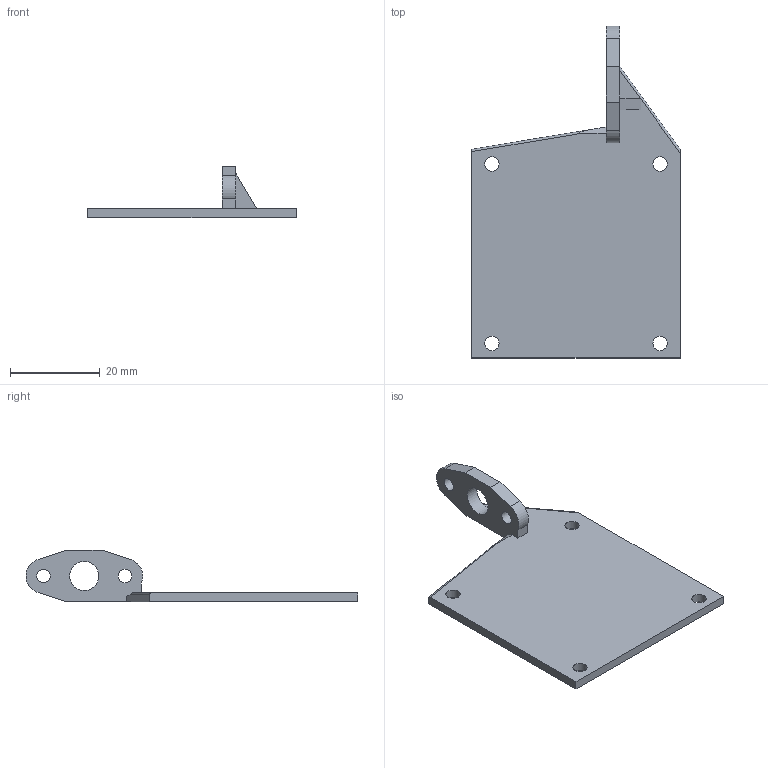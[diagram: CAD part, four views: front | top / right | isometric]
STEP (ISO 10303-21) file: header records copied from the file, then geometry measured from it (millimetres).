
FILE_DESCRIPTION(/* description */ (''),/* implementation_level */ '2;1');
FILE_NAME(/* name */ 'C:/Users/longl/OneDrive/Documents/OpenBox Builds/Parts/X-Axis_Y-Axis/BLTouch Mount For Extruder Mount Custom/BLTouch Sensor Attach Plate.step',/* time_stamp */ '2021-09-26T12:47:35-04:00',/* author */ (''),/* organization */ (''),/* preprocessor_version */ 'ST-DEVELOPER v18.1',/* originating_system */ 'Autodesk Translation Framework v10.10.0.1391',/* authorisation */ '');
FILE_SCHEMA (('AUTOMOTIVE_DESIGN { 1 0 10303 214 3 1 1 }'));
Length unit declared in the file: millimetre
Products named in the file (1): BLTouch Attach Plate
Bounding box: 46.5 x 73.99 x 11.5 mm (x, y, z)
Volume: 5331.2 mm3; surface area: 5834 mm2
Topology: 1 solids, 1 shells, 30 faces, 83 edges, 54 vertices
Faces by surface type: plane 19, cylinder 11
Full cylindrical faces by diameter (mm): 3 x2, 3.2 x4, 6.5 x1
Entity records: 1008 total; most frequent: DIRECTION 168, CARTESIAN_POINT 168, ORIENTED_EDGE 166, EDGE_CURVE 83, LINE 60, VECTOR 60, VERTEX_POINT 54, AXIS2_PLACEMENT_3D 54
